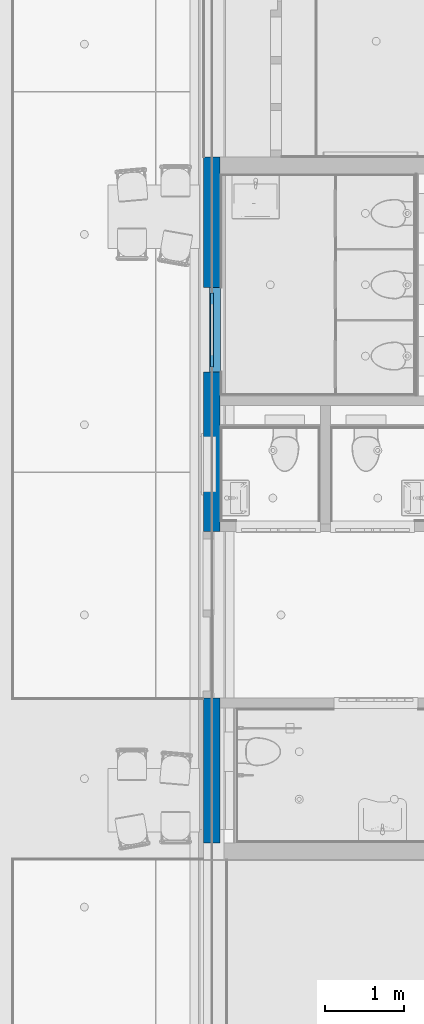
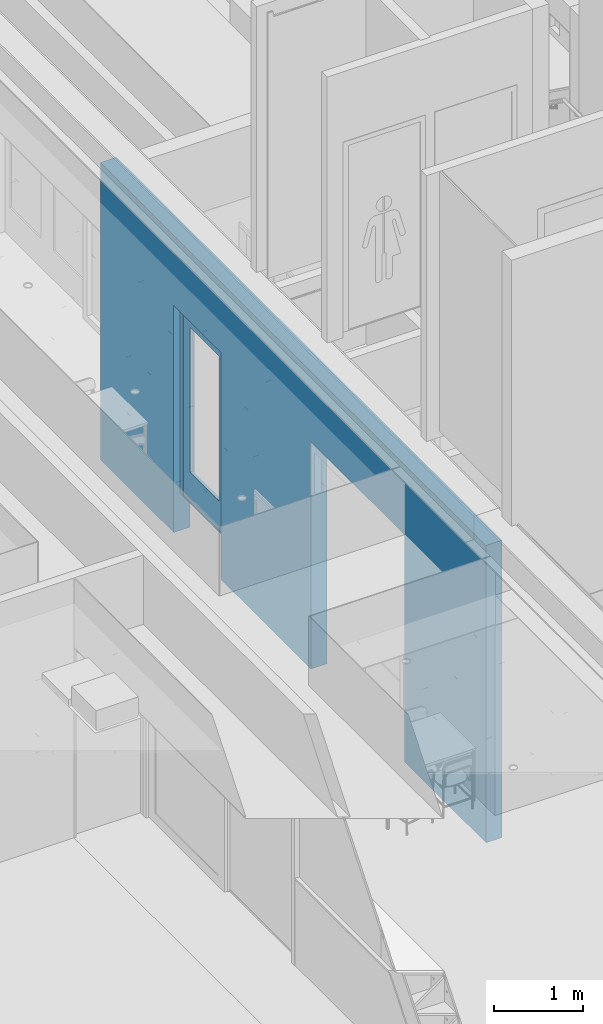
# One storey, part 72 of 347: 2 building element parts, 1 wall, 2 openings, 1 element without a shape of its own.
"""IFC2X3 building model written with IfcOpenShell, lengths in millimetres."""

import ifcopenshell
import ifcopenshell.guid

model = None  # the IFC model being written
_history = None  # IfcOwnerHistory: only IFC2X3 demands one
_inside = {}  # id of a spatial element -> (the spatial element, [elements in it])
_under = {}  # id of a project, library or spatial element -> (it, [spatial elements below it])
_declared = {}  # id of a project -> (the project, [libraries it declares])
_typed = {}  # id of a type object -> (the type object, [elements of that type])
_made_of = {}  # id of a material, layer set ... -> (it, [elements and type objects made of it])


def new_model(schema):
    """Start an empty IFC model of exactly this schema.

    Asked for "IFC4X3", IfcOpenShell would pick the latest addendum, in which some entities
    have other attributes; the version numbers below select the first issue.
    IFC2X3 requires an IfcOwnerHistory on every rooted entity: one is made here for all.
    """
    global model, _history
    if schema == "IFC4X3":
        model = ifcopenshell.file(schema_version=(4, 3, 0, 0))
    else:
        model = ifcopenshell.file(schema=schema)
    _inside.clear()
    _under.clear()
    _declared.clear()
    _typed.clear()
    _made_of.clear()
    _history = None
    if model.schema == "IFC2X3":
        org = make("IfcOrganization", Name="unknown")
        user = make(
            "IfcPersonAndOrganization",
            ThePerson=make("IfcPerson", FamilyName="unknown"),
            TheOrganization=org,
        )
        app = make(
            "IfcApplication",
            ApplicationDeveloper=org,
            Version="unknown",
            ApplicationFullName="unknown",
            ApplicationIdentifier="unknown",
        )
        _history = make(
            "IfcOwnerHistory",
            OwningUser=user,
            OwningApplication=app,
            ChangeAction="ADDED",
            CreationDate=0,
        )
    return model


def make(cls, **values):
    """One entity of the class cls with the attributes given. An attribute that is None is left unset."""
    return model.create_entity(
        cls, **{name: value for name, value in values.items() if value is not None}
    )


def entity(cls, *values):
    """Any entity or typed value of the class cls, its attributes in the order of the schema. None: left unset."""
    e = model.create_entity(cls)
    for i, value in enumerate(values):
        if value is not None:
            e[i] = value
    return e


def rooted(cls, **values):
    """An entity with a GlobalId (a new one), such as an element, a storey or a relation."""
    return make(cls, GlobalId=ifcopenshell.guid.new(), OwnerHistory=_history, **values)


def si_unit(unit_type, name, prefix=None):
    """IfcSIUnit, for example si_unit("LENGTHUNIT", "METRE", prefix="MILLI")."""
    return make("IfcSIUnit", UnitType=unit_type, Prefix=prefix, Name=name)


def converted_unit(unit_type, name, factor, base, dimensions=None, offset=None):
    """IfcConversionBasedUnit, such as the inch: factor (a typed value) times the base unit."""
    return make(
        "IfcConversionBasedUnit"
        if offset is None
        else "IfcConversionBasedUnitWithOffset",
        ConversionOffset=offset,
        Dimensions=None
        if dimensions is None
        else entity("IfcDimensionalExponents", *dimensions),
        UnitType=unit_type,
        Name=name,
        ConversionFactor=make(
            "IfcMeasureWithUnit", ValueComponent=factor, UnitComponent=base
        ),
    )


def derived_unit(unit_type, elements):
    """IfcDerivedUnit: a product of units, each with its exponent."""
    return make(
        "IfcDerivedUnit",
        Elements=[
            make("IfcDerivedUnitElement", Unit=unit, Exponent=power)
            for unit, power in elements
        ],
        UnitType=unit_type,
    )


def money_unit(currency):
    """IfcMonetaryUnit."""
    return make("IfcMonetaryUnit", Currency=currency)


def assignment(units):
    """IfcUnitAssignment: the units of a project."""
    return None if units is None else make("IfcUnitAssignment", Units=units)


def point(xyz):
    """IfcCartesianPoint."""
    return None if xyz is None else make("IfcCartesianPoint", Coordinates=xyz)


def direction(xyz):
    """IfcDirection."""
    return None if xyz is None else make("IfcDirection", DirectionRatios=xyz)


def frame(location, z_axis=None, x_axis=None):
    """IfcAxis2Placement3D, a coordinate frame: its origin and axes. An axis left out is left unset."""
    return make(
        "IfcAxis2Placement3D",
        Location=point(location),
        Axis=direction(z_axis),
        RefDirection=direction(x_axis),
    )


def origin_with_axes():
    """The frame at (0, 0, 0) with the z axis (0, 0, 1) and the x axis (1, 0, 0) written out."""
    return frame((0.0, 0.0, 0.0), z_axis=(0.0, 0.0, 1.0), x_axis=(1.0, 0.0, 0.0))


def place(relative_to, where):
    """IfcLocalPlacement: puts the frame where relative to a parent placement (None: the world)."""
    return make(
        "IfcLocalPlacement", PlacementRelTo=relative_to, RelativePlacement=where
    )


def context(
    kind, dimensions, precision=None, world=None, true_north=None, identifier=None
):
    """IfcGeometricRepresentationContext, for example the 3D "Model" context."""
    return make(
        "IfcGeometricRepresentationContext",
        ContextIdentifier=identifier,
        ContextType=kind,
        CoordinateSpaceDimension=dimensions,
        Precision=precision,
        WorldCoordinateSystem=world,
        TrueNorth=true_north,
    )


def subcontext(parent, identifier, kind, view, scale=None):
    """IfcGeometricRepresentationSubContext, for example "Body" below "Model"."""
    return make(
        "IfcGeometricRepresentationSubContext",
        ContextIdentifier=identifier,
        ContextType=kind,
        ParentContext=parent,
        TargetScale=scale,
        TargetView=view,
    )


def project(units=None, contexts=None):
    """IfcProject with its units and contexts."""
    return rooted(
        "IfcProject",
        Name="project",
        RepresentationContexts=contexts,
        UnitsInContext=assignment(units),
    )


def spatial(cls, under=None, at=None, **own):
    """A site, building, storey or space (cls), placed at a placement, below another one or the project."""
    s = rooted(cls, ObjectPlacement=at, **own)
    if under is not None:
        _under.setdefault(under.id(), (under, []))[1].append(s)
    return s


def faces_of(points, faces, orient=None, outer=None):
    """IfcFace entities. A face is a list of loops; a loop is a list of indices into points, from 0.

    orient and outer hold one flag for each loop. By default every Orientation is true, the
    first loop of a face is its IfcFaceOuterBound and the others are IfcFaceBound.
    """
    made = []
    for i, loops in enumerate(faces):
        bounds = []
        for j, loop in enumerate(loops):
            is_outer = j == 0 if outer is None else outer[i][j]
            bounds.append(
                make(
                    "IfcFaceOuterBound" if is_outer else "IfcFaceBound",
                    Bound=make("IfcPolyLoop", Polygon=[points[k] for k in loop]),
                    Orientation=True if orient is None else orient[i][j],
                )
            )
        made.append(make("IfcFace", Bounds=bounds))
    return made


def faceted_brep(points, faces, orient=None, outer=None, voids=None):
    """IfcFacetedBrep: a solid bounded by flat faces; with voids (closed shells), ...WithVoids."""
    shared = [point(p) for p in points]
    hull = make("IfcClosedShell", CfsFaces=faces_of(shared, faces, orient, outer))
    if voids is None:
        return make("IfcFacetedBrep", Outer=hull)
    return make(
        "IfcFacetedBrepWithVoids",
        Outer=hull,
        Voids=[
            make(cls, CfsFaces=faces_of(shared, fs, o, b)) for cls, fs, o, b in voids
        ],
    )


def shape(context_of_items, identifier, shape_type, items):
    """IfcShapeRepresentation: the items that make up one representation, for example the "Body"."""
    return make(
        "IfcShapeRepresentation",
        ContextOfItems=context_of_items,
        RepresentationIdentifier=identifier,
        RepresentationType=shape_type,
        Items=items,
    )


def material(Name=None, Category=None):
    """IfcMaterial."""
    return make("IfcMaterial", Name=Name, Category=Category)


def made_of(thing, what):
    """Note that an element or type object is made of a material, layer set ...; save() writes the relation."""
    if what is not None:
        _made_of.setdefault(what.id(), (what, []))[1].append(thing)
    return thing


def type_object(cls, material=None, **own):
    """A type object (cls), such as IfcWallType, which elements share."""
    return made_of(rooted(cls, **own), material)


def element(
    cls,
    number,
    at=None,
    inside=None,
    cuts=None,
    type_object=None,
    material=None,
    context=None,
    identifier="Body",
    shape_type=None,
    held_by="IfcProductDefinitionShape",
    body=None,
    shapes=None,
    **own,
):
    """One element of the class cls, such as IfcWall. Its Tag is "e" and its number.

    at: its placement. inside: the storey or other place that contains it. cuts: it is an
    opening in that element (IfcRelVoidsElement). A single representation is given by context,
    identifier, shape_type and body (its items); several are given by shapes. held_by: the class
    of the entity that holds the representations. save() writes the other relations.
    """
    e = rooted(cls, Tag="e%d" % number, ObjectPlacement=at, **own)
    if body is not None:
        shapes = [shape(context, identifier, shape_type, body)]
    if shapes is not None:
        e.Representation = make(held_by, Representations=shapes)
    if inside is not None:
        _inside.setdefault(inside.id(), (inside, []))[1].append(e)
    if cuts is not None:
        rooted(
            "IfcRelVoidsElement", RelatingBuildingElement=cuts, RelatedOpeningElement=e
        )
    if type_object is not None:
        _typed.setdefault(type_object.id(), (type_object, []))[1].append(e)
    return made_of(e, material)


def fill(opening, filler):
    """IfcRelFillsElement: the door or window that sits in an opening."""
    return rooted(
        "IfcRelFillsElement",
        RelatingOpeningElement=opening,
        RelatedBuildingElement=filler,
    )


def aggregate(whole, parts):
    """IfcRelAggregates: a whole, such as a stair, and the parts it consists of."""
    return rooted("IfcRelAggregates", RelatingObject=whole, RelatedObjects=parts)


def save(model, path):
    """Write the relations noted so far, then the file.

    IfcRelAggregates (storeys below a building ...), IfcRelContainedInSpatialStructure (elements
    in a storey), IfcRelDefinesByType, IfcRelAssociatesMaterial and IfcRelDeclares: one each for
    every whole, place, type object, material and project.
    """
    for whole, parts in _under.values():
        aggregate(whole, parts)
    for where, things in _inside.values():
        rooted(
            "IfcRelContainedInSpatialStructure",
            RelatedElements=things,
            RelatingStructure=where,
        )
    for kind, things in _typed.values():
        rooted("IfcRelDefinesByType", RelatedObjects=things, RelatingType=kind)
    for what, things in _made_of.values():
        rooted("IfcRelAssociatesMaterial", RelatedObjects=things, RelatingMaterial=what)
    for by, libraries in _declared.values():
        rooted("IfcRelDeclares", RelatingContext=by, RelatedDefinitions=libraries)
    model.write(path)


model = new_model("IFC2X3")

# Units and contexts
model_context = context("Model", 3, precision=0.01, world=origin_with_axes(), true_north=direction((0.0, 1.0)))
plan_context = context("Plan", 3, precision=0.01, world=origin_with_axes(), true_north=direction((0.0, 1.0)))
body_context = subcontext(model_context, "Body", "Model", "MODEL_VIEW")
ifc_project = project(units=[si_unit("LENGTHUNIT", "METRE", prefix="MILLI"), si_unit("AREAUNIT", "SQUARE_METRE"), si_unit("VOLUMEUNIT", "CUBIC_METRE"), converted_unit("PLANEANGLEUNIT", "DEGREE", entity("IfcPlaneAngleMeasure", 0.0174532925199), si_unit("PLANEANGLEUNIT", "RADIAN"), dimensions=[0, 0, 0, 0, 0, 0, 0]), money_unit("EUR"), converted_unit("TIMEUNIT", "Year", entity("IfcTimeMeasure", 31556926.0), si_unit("TIMEUNIT", "SECOND"), dimensions=[0, 0, 1, 0, 0, 0, 0]), si_unit("MASSUNIT", "GRAM", prefix="KILO"), si_unit("THERMODYNAMICTEMPERATUREUNIT", "DEGREE_CELSIUS"), si_unit("LUMINOUSINTENSITYUNIT", "LUMEN"), si_unit("ENERGYUNIT", "JOULE", prefix="MEGA"), derived_unit("THERMALCONDUCTANCEUNIT", [(si_unit("POWERUNIT", "WATT"), 1), (si_unit("LENGTHUNIT", "METRE"), -1), (si_unit("THERMODYNAMICTEMPERATUREUNIT", "KELVIN"), -1)]), derived_unit("SPECIFICHEATCAPACITYUNIT", [(si_unit("ENERGYUNIT", "JOULE"), 1), (si_unit("MASSUNIT", "GRAM", prefix="KILO"), -1), (si_unit("THERMODYNAMICTEMPERATUREUNIT", "KELVIN"), -1)]), derived_unit("MASSDENSITYUNIT", [(si_unit("MASSUNIT", "GRAM", prefix="KILO"), 1), (si_unit("VOLUMEUNIT", "CUBIC_METRE"), -1)])], contexts=[model_context, plan_context])

# Site, building, storey
site_placement = place(None, origin_with_axes())
site = spatial("IfcSite", under=ifc_project, at=site_placement, Name="Site", CompositionType="ELEMENT")
building_placement = place(site_placement, origin_with_axes())
building = spatial("IfcBuilding", under=site, at=building_placement, Name="Naam gebouw", CompositionType="ELEMENT")
storey_placement = place(building_placement, origin_with_axes())
storey = spatial("IfcBuildingStorey", under=building, at=storey_placement, Name="begane grond", CompositionType="ELEMENT", Elevation=0.0)

# Wall, openings, door, building element parts
ifc_material_1 = material(Name="Beton gewapend prefab wand")
wall_type = type_object("IfcWallType", Name="Betonwand 200 210", PredefinedType="NOTDEFINED")
wall_placement = place(storey_placement, frame((35705.0, 25940.0, -510.0), z_axis=(0.0, 0.0, 1.0), x_axis=(0.0, 1.0, 0.0)))
wall = element("IfcWall", 1, at=wall_placement, inside=storey, type_object=wall_type, material=ifc_material_1, Name="21_21 betonwand", context=body_context, shape_type="Brep", body=[
    faceted_brep([(2035.0, 0.0, 440.0), (2035.0, 0.0, 3110.0), (4134.99992765, 0.0, 3110.0), (4134.99992765, 0.0, 440.0), (4134.99992765, 0.0, 0.0), (6149.99992765, 0.0, 0.0), (6149.99992765, 0.0, 440.0), (6149.99992765, 0.0, 3110.0), (7213.99992765, 0.0, 3110.0), (7213.99992765, 0.0, 440.0), (7213.99992765, 0.0, 0.0), (8860.0, 0.0, 0.0), (8860.0, 0.0, 4070.0), (210.0, 0.0, 4070.0), (210.0, 0.0, 0.0), (2035.0, 0.0, 0.0), (2035.0, 210.0, 440.0), (2035.0, 210.0, 3110.0), (4134.99992765, 210.0, 3110.0), (4134.99992765, 210.0, 440.0), (4134.99992765, 210.0, 0.0), (6149.99992765, 210.0, 0.0), (6149.99992765, 210.0, 440.0), (6149.99992765, 130.0, 440.0), (6149.99992765, 210.0, 3110.0), (7213.99992765, 210.0, 3110.0), (7213.99992765, 210.0, 440.0), (7213.99992765, 130.0, 440.0), (7213.99992765, 210.0, 0.0), (8860.0, 210.0, 0.0), (8860.0, 210.0, 4070.0), (210.0, 210.0, 4070.0), (210.0, 210.0, 0.0), (2035.0, 210.0, 0.0)], [[[0, 1, 2, 3, 4, 5, 6, 7, 8, 9, 10, 11, 12, 13, 14, 15]], [[1, 0, 16, 17]], [[2, 1, 17, 18]], [[3, 2, 18, 19]], [[3, 19, 20, 4]], [[4, 20, 21, 5]], [[5, 21, 22, 23, 6]], [[23, 22, 24, 7, 6]], [[7, 24, 25, 8]], [[8, 25, 26, 27, 9]], [[26, 28, 10, 9, 27]], [[29, 11, 10, 28]], [[29, 30, 12, 11]], [[13, 12, 30, 31]], [[32, 14, 13, 31]], [[14, 32, 33, 15]], [[16, 0, 15, 33]], [[17, 16, 33, 32, 31, 30, 29, 28, 26, 25, 24, 22, 21, 20, 19, 18]]]),
])
opening_1_placement = place(wall_placement, frame((6681.99992765, 0.0, 510.0), z_axis=(0.0, 0.0, 1.0), x_axis=(1.0, 0.0, 0.0)))
opening_1 = element("IfcOpeningElement", 2, at=opening_1_placement, cuts=wall, Name="32_01.04", context=body_context, shape_type="Brep", body=[
    faceted_brep([(-532.0, 130.0, 2600.0), (-532.0, 130.0, -450.0), (-532.0, -210.0, -450.0), (-532.0, -210.0, 2600.0), (532.0, 130.0, 2600.0), (532.0, 130.0, -450.0), (532.0, -210.0, -450.0), (532.0, -210.0, 2600.0)], [[[0, 1, 2, 3]], [[0, 4, 5, 1]], [[1, 5, 6, 2]], [[3, 2, 6, 7]], [[4, 0, 3, 7]], [[5, 4, 7, 6]]]),
    faceted_brep([(-532.0, 130.0, -450.0), (-532.0, 130.0, 2600.0), (-532.0, 420.0, 2600.0), (-532.0, 420.0, -450.0), (532.0, 130.0, -450.0), (532.0, 130.0, 2600.0), (532.0, 420.0, 2600.0), (532.0, 420.0, -450.0)], [[[0, 1, 2, 3]], [[0, 4, 5, 1]], [[1, 5, 6, 2]], [[3, 2, 6, 7]], [[4, 0, 3, 7]], [[5, 4, 7, 6]]]),
])
opening_2_placement = place(wall_placement, frame((3084.99996383, 0.0, 510.0), z_axis=(0.0, 0.0, 1.0), x_axis=(1.0, 0.0, 0.0)))
element("IfcOpeningElement", 3, at=opening_2_placement, cuts=wall, Name="32_04.05", context=body_context, shape_type="Brep", body=[
    faceted_brep([(-1049.99996383, -210.0, -450.0), (-1049.99996383, -210.0, 2600.0), (-1049.99996383, 427.0, 2600.0), (-1049.99996383, 427.0, -450.0), (1049.99996383, -210.0, -450.0), (1049.99996383, -210.0, 2600.0), (1049.99996383, 427.0, 2600.0), (1049.99996383, 427.0, -450.0)], [[[0, 1, 2, 3]], [[0, 4, 5, 1]], [[1, 5, 6, 2]], [[3, 2, 6, 7]], [[4, 0, 3, 7]], [[5, 4, 7, 6]]]),
])
door_style = type_object("IfcDoorStyle", Name="D1 25", ConstructionType="NOTDEFINED", OperationType="SINGLE_SWING_LEFT", ParameterTakesPrecedence=False, Sizeable=False)
door_placement = place(opening_1_placement, frame((-532.0, 0.0, 0.0), z_axis=(0.0, 0.0, 1.0), x_axis=(1.0, 0.0, 0.0)))
door = element("IfcDoor", 4, at=door_placement, inside=storey, type_object=door_style, Name="32_01.04", ObjectType="DOOR", OverallHeight=2600.0, OverallWidth=1064.0)
fill(opening_1, door)
building_element_part_1_placement = place(door_placement, origin_with_axes())
building_element_part_1 = element("IfcBuildingElementPart", 5, at=building_element_part_1_placement, context=body_context, shape_type="Brep", body=[
    faceted_brep([(999.0, 90.0, 10.0), (999.0, 130.0, 10.0), (65.0, 130.0, 10.0), (65.0, 90.0, 10.0), (90.0, 90.0, 10.0), (90.0, -9.0, 10.0), (974.0, -9.0, 10.0), (974.0, 90.0, 10.0), (999.0, 90.0, 0.0), (999.0, 130.0, 0.0), (65.0, 130.0, 0.0), (65.0, 90.0, 0.0), (90.0, 90.0, 0.0), (90.0, -9.0, 0.0), (974.0, -9.0, 0.0), (974.0, 90.0, 0.0)], [[[0, 1, 2, 3, 4, 5, 6, 7]], [[8, 9, 1, 0]], [[9, 10, 2, 1]], [[11, 3, 2, 10]], [[3, 11, 12, 4]], [[5, 4, 12, 13]], [[6, 5, 13, 14]], [[14, 15, 7, 6]], [[7, 15, 8, 0]], [[15, 14, 13, 12, 11, 10, 9, 8]]]),
    faceted_brep([(974.0, 80.0, 0.0), (974.0, -9.0, 0.0), (974.0, -9.0, 2510.0), (974.0, 80.0, 2510.0), (999.0, 80.0, 0.0), (999.0, 130.0, 0.0), (1064.0, 130.0, 0.0), (1064.0, -9.0, 0.0), (1064.0, -9.0, 2510.0), (999.0, 80.0, 2510.0), (1064.0, 130.0, 2510.0), (999.0, 130.0, 2510.0)], [[[0, 1, 2, 3]], [[4, 5, 6, 7, 1, 0]], [[1, 7, 8, 2]], [[9, 3, 2, 8, 10, 11]], [[9, 4, 0, 3]], [[11, 5, 4, 9]], [[11, 10, 6, 5]], [[6, 10, 8, 7]]]),
    faceted_brep([(65.0, 80.0, 2510.0), (65.0, 130.0, 2510.0), (0.0, 130.0, 2510.0), (0.0, -9.0, 2510.0), (90.0, -9.0, 2510.0), (90.0, 80.0, 2510.0), (65.0, 80.0, 0.0), (65.0, 130.0, 0.0), (0.0, 130.0, 0.0), (0.0, -9.0, 0.0), (90.0, -9.0, 0.0), (90.0, 80.0, 0.0)], [[[0, 1, 2, 3, 4, 5]], [[0, 6, 7, 1]], [[7, 8, 2, 1]], [[2, 8, 9, 3]], [[3, 9, 10, 4]], [[5, 4, 10, 11]], [[5, 11, 6, 0]], [[6, 11, 10, 9, 8, 7]]]),
    faceted_brep([(999.0, 130.0, 2535.0), (65.0, 130.0, 2535.0), (65.0, 130.0, 2510.0), (0.0, 130.0, 2510.0), (0.0, 130.0, 2600.0), (1064.0, 130.0, 2600.0), (1064.0, 130.0, 2510.0), (999.0, 130.0, 2510.0), (999.0, 80.0, 2535.0), (65.0, 80.0, 2535.0), (65.0, 80.0, 2510.0), (90.0, 80.0, 2510.0), (90.0, -9.0, 2510.0), (0.0, -9.0, 2510.0), (0.0, -9.0, 2600.0), (1064.0, -9.0, 2600.0), (1064.0, -9.0, 2510.0), (999.0, 80.0, 2510.0), (974.0, -9.0, 2510.0), (974.0, 80.0, 2510.0)], [[[0, 1, 2, 3, 4, 5, 6, 7]], [[0, 8, 9, 1]], [[1, 9, 10, 2]], [[10, 11, 12, 13, 3, 2]], [[4, 3, 13, 14]], [[5, 4, 14, 15]], [[6, 5, 15, 16]], [[17, 7, 6, 16, 18, 19]], [[7, 17, 8, 0]], [[10, 9, 8, 17, 19, 11]], [[19, 18, 12, 11]], [[12, 18, 16, 15, 14, 13]]]),
])
ifc_material_2 = material(Name="Hout C")
building_element_part_2_placement = place(door_placement, origin_with_axes())
building_element_part_2 = element("IfcBuildingElementPart", 6, at=building_element_part_2_placement, material=ifc_material_2, Name="Hout C", context=body_context, shape_type="Brep", body=[
    faceted_brep([(65.0, 120.0, 10.0), (999.0, 120.0, 10.0), (999.0, 80.0, 10.0), (65.0, 80.0, 10.0), (65.0, 120.0, 2535.0), (999.0, 120.0, 2535.0), (858.397849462, 120.0, 2394.16334661), (205.602150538, 120.0, 2394.16334661), (205.602150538, 120.0, 412.390438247), (858.397849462, 120.0, 412.390438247), (999.0, 80.0, 2535.0), (65.0, 80.0, 2535.0), (858.397849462, 80.0, 2394.16334661), (858.397849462, 80.0, 412.390438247), (205.602150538, 80.0, 412.390438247), (205.602150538, 80.0, 2394.16334661)], [[[0, 1, 2, 3]], [[0, 4, 5, 1], [6, 7, 8, 9]], [[1, 5, 10, 2]], [[3, 2, 10, 11], [12, 13, 14, 15]], [[4, 0, 3, 11]], [[5, 4, 11, 10]], [[7, 6, 12, 15]], [[8, 7, 15, 14]], [[9, 8, 14, 13]], [[6, 9, 13, 12]]]),
])
aggregate(door, [building_element_part_1, building_element_part_2])

save(model, "model.ifc")
